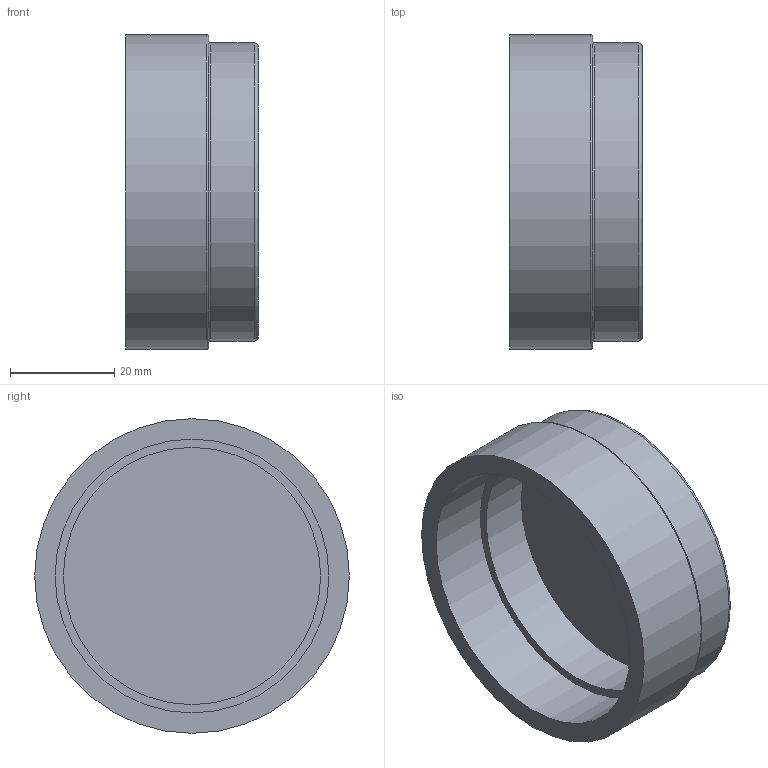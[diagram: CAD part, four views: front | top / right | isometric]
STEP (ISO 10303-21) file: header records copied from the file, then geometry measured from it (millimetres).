
FILE_DESCRIPTION(/* description */ ('VIC SS CAP No 460DX (OGS)'),/* implementation_level */ '2;1');
FILE_NAME(/* name */ 'C:\Files for Export\SS Duplex\STEP\Victaulic_SS-OGS_Cap_No 460DX (OGS)\Victaulic_SS-OGS_Cap_No 460DX (OGS)_2 (50).stp',/* time_stamp */ '2024-08-28T10:35:51+02:00',/* author */ ('CORINNE GRAY'),/* organization */ ('Victaulic'),/* preprocessor_version */ 'ST-DEVELOPER v18.1',/* originating_system */ 'Autodesk Inventor 2020',/* authorisation */ '');
FILE_SCHEMA (('AUTOMOTIVE_DESIGN { 1 0 10303 214 3 1 1 }'));
Length unit declared in the file: inch
Products named in the file (1): 460DX-02.0
Bounding box: 25.4 x 60.33 x 60.33 mm (x, y, z)
Volume: 25682.5 mm3; surface area: 13765 mm2
Topology: 1 solids, 1 shells, 12 faces, 32 edges, 25 vertices
Faces by surface type: plane 5, cylinder 4, torus 3
Full cylindrical faces by diameter (mm): 49.327 x1, 52.502 x1, 57.15 x1, 60.325 x1
Entity records: 467 total; most frequent: DIRECTION 86, CARTESIAN_POINT 70, ORIENTED_EDGE 64, AXIS2_PLACEMENT_3D 41, EDGE_CURVE 32, CIRCLE 28, VERTEX_POINT 25, EDGE_LOOP 15
